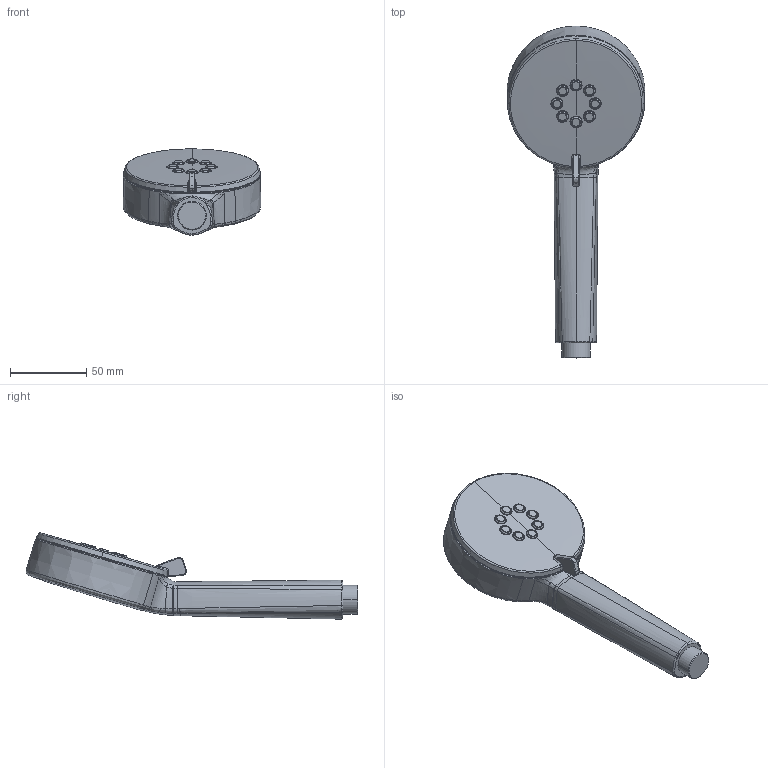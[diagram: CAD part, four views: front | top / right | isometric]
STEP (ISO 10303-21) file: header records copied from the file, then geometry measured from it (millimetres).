
FILE_DESCRIPTION (( 'STEP AP203' ), '1' );
FILE_NAME ('55620100(2022).STEP', '2022-10-20T10:36:40', ( '' ), ( '' ), 'SwSTEP 2.0', 'SolidWorks 2016', '' );
FILE_SCHEMA (( 'CONFIG_CONTROL_DESIGN' ));
Length unit declared in the file: millimetre
Products named in the file (1): 55620100(2022)
Bounding box: 90.24 x 217.51 x 56.54 mm (x, y, z)
Volume: 258239 mm3; surface area: 36833.3 mm2
Topology: 1 solids, 1 shells, 260 faces, 609 edges, 358 vertices
Faces by surface type: bspline 222, cylinder 16, plane 14, cone 8
Entity records: 24185 total; most frequent: CARTESIAN_POINT 19963, ORIENTED_EDGE 1214, EDGE_CURVE 607, B_SPLINE_CURVE_WITH_KNOTS 391, VERTEX_POINT 358, DIRECTION 330, EDGE_LOOP 269, FACE_OUTER_BOUND 260
